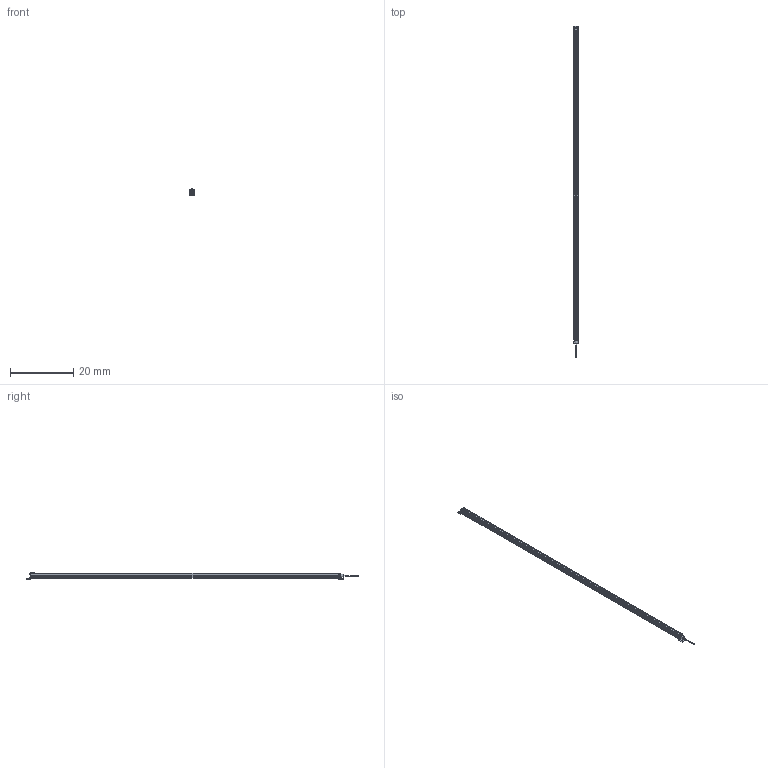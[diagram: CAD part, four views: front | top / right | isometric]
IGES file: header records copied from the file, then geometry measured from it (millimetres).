
Start section:  Autodesk DirectConnect version 7.0.27.0 ---- IGES version 5.3
Global section: file name: C:\ACADFILES\MG_PYLONS\CUSTOMER_FILES\MG-96-PYLON_3D_L.iges; native system: Autodesk DirectConnect 7.0.27.0; preprocessor: 7.0.27.0; author: ENGINEERMAIN; organization: Unknown; date: 20150810.144029; units: millimetre
Bounding box: 1.46 x 104.85 x 2.11 mm (x, y, z)
Surface area: 1430.6 mm2 (no closed solid volume)
Topology: 0 solids, 0 shells, 630 faces, 3369 edges, 3383 vertices
Faces by surface type: bspline 630
